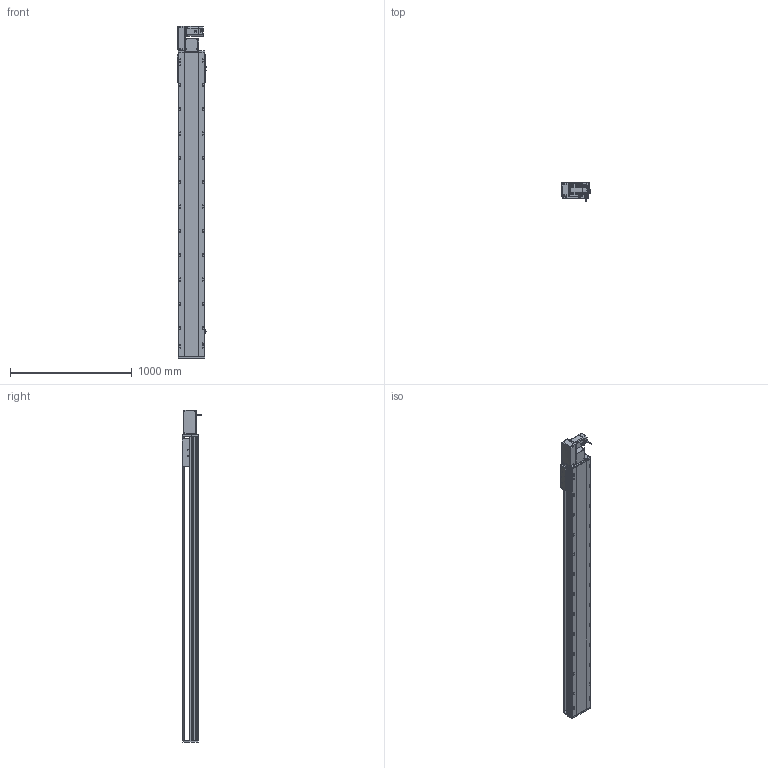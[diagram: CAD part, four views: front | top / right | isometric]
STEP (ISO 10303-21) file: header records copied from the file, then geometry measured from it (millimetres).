
FILE_DESCRIPTION (( 'STEP AP214' ), '1' );
FILE_NAME ('RTB22S-XX-2150-L-M75-C4.STEP', '2025-12-12T03:25:39', ( '' ), ( '' ), 'SwSTEP 2.0', 'SolidWorks 2018', '' );
FILE_SCHEMA (( 'AUTOMOTIVE_DESIGN' ));
Length unit declared in the file: millimetre
Products named in the file (14): RTB22S-GY-008-M75--萇儂啣^RTB22S-L-々湍釱蚾饜_RTB22S-XX-XX-L-M75-C4; RTH22-GY-013外置感应片^RTB22S-XX-XX-L-M75-C4; 750W萇儂^RTB22S-XX-XX-L-M75-C4; RTB22S-GY-005P^RTB22S-L-々湍釱蚾饜_RTB22S-XX-XX-L-M75-C4; RTB22S-GY-007奻裔^RTB22S-XX-XX-L-M75-C4; RTB22S-GY-014--々湍釱^RTB22S-L-々湍釱蚾饜_RTB22S-XX-XX-L-M75-C4; RTB22S-XX-2150-L-M75-C4; RTB22S-L-004賑釱^RTB22S-XX-XX-L-M75-C4; RTB22S-GY-018P^RTB22S-L-々湍釱蚾饜_RTB22S-XX-XX-L-M75-C4; OMRON EE-SX672 传感器^RTB22S-XX-XX-L-M75-C4; RTB22S-GY-017P^RTB22S-L-々湍釱蚾饜_RTB22S-XX-XX-L-M75-C4; RTB22S-L-々湍釱蚾饜^RTB22S-XX-XX-L-M75-C4; RTB22S-L-011菁釱^RTB22S-XX-XX-L-M75-C4; RTB22S-GY-001耜裔^RTB22S-XX-XX-L-M75-C4
Assembly tree (16 placements, depth 3):
  RTB22S-XX-2150-L-M75-C4
    RTB22S-L-011菁釱^RTB22S-XX-XX-L-M75-C4
    750W萇儂^RTB22S-XX-XX-L-M75-C4
    RTB22S-L-004賑釱^RTB22S-XX-XX-L-M75-C4
    OMRON EE-SX672 传感器^RTB22S-XX-XX-L-M75-C4  x3
    RTH22-GY-013外置感应片^RTB22S-XX-XX-L-M75-C4
    RTB22S-GY-007奻裔^RTB22S-XX-XX-L-M75-C4
    RTB22S-GY-001耜裔^RTB22S-XX-XX-L-M75-C4
    RTB22S-L-々湍釱蚾饜^RTB22S-XX-XX-L-M75-C4
      RTB22S-GY-014--々湍釱^RTB22S-L-々湍釱蚾饜_RTB22S-XX-XX-L-M75-C4
      RTB22S-GY-017P^RTB22S-L-々湍釱蚾饜_RTB22S-XX-XX-L-M75-C4  x2
      RTB22S-GY-005P^RTB22S-L-々湍釱蚾饜_RTB22S-XX-XX-L-M75-C4
      RTB22S-GY-008-M75--萇儂啣^RTB22S-L-々湍釱蚾饜_RTB22S-XX-XX-L-M75-C4
      RTB22S-GY-018P^RTB22S-L-々湍釱蚾饜_RTB22S-XX-XX-L-M75-C4
Bounding box: 238.5 x 162.7 x 2729 mm (x, y, z)
Volume: 34687819.2 mm3; surface area: 3555717 mm2
Topology: 15 solids, 15 shells, 2073 faces, 5636 edges, 3602 vertices
Faces by surface type: plane 925, cylinder 682, bspline 296, cone 158, sphere 8, torus 4
Entity records: 56058 total; most frequent: CARTESIAN_POINT 15912, ORIENTED_EDGE 8020, DIRECTION 7804, EDGE_CURVE 4010, AXIS2_PLACEMENT_3D 2786, VERTEX_POINT 2606, LINE 2232, VECTOR 2232
